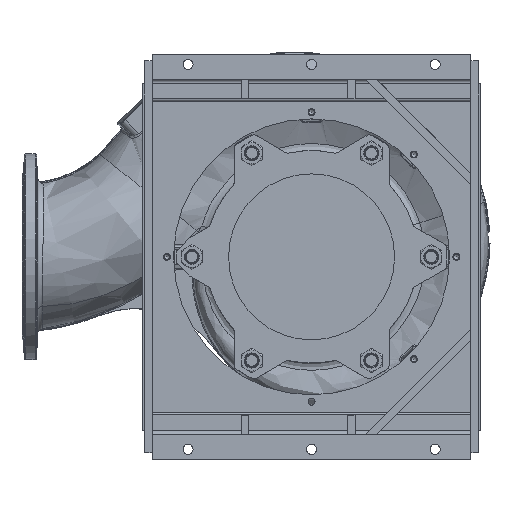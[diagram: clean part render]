
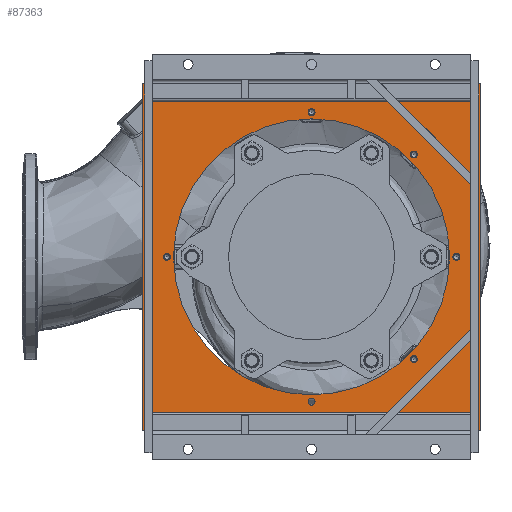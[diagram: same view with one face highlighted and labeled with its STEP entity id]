
A CAD part, front view. The second image highlights one B-rep face of the part: STEP entity #87363.
In plain terms, the highlighted planar face has unit normal (0, -1, 0).
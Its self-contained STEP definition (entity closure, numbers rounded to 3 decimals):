
#3347 = ORIENTED_EDGE ( 'NONE', *, *, #16987, .T. ) ;
#5144 = VERTEX_POINT ( 'NONE', #93128 ) ;
#6228 = EDGE_CURVE ( 'NONE', #5144, #92721, #111304, .T. ) ;
#7547 = EDGE_LOOP ( 'NONE', ( #3347 ) ) ;
#9225 = CARTESIAN_POINT ( 'NONE',  ( 496.627, -242., -265.165 ) ) ;
#9312 = ORIENTED_EDGE ( 'NONE', *, *, #132445, .T. ) ;
#10261 = EDGE_CURVE ( 'NONE', #52701, #5144, #52381, .T. ) ;
#10549 = VERTEX_POINT ( 'NONE', #56535 ) ;
#15157 = CARTESIAN_POINT ( 'NONE',  ( 505.627, -242., 265.165 ) ) ;
#16987 = EDGE_CURVE ( 'NONE', #122360, #122360, #106817, .T. ) ;
#18721 = ORIENTED_EDGE ( 'NONE', *, *, #150561, .T. ) ;
#18819 = FACE_BOUND ( 'NONE', #55289, .T. ) ;
#20319 = AXIS2_PLACEMENT_3D ( 'NONE', #116493, #142422, #31769 ) ;
#24228 = DIRECTION ( 'NONE',  ( 0., 1., 0. ) ) ;
#27444 = LINE ( 'NONE', #75406, #155515 ) ;
#29579 = CARTESIAN_POINT ( 'NONE',  ( 496.627, -242., 265.165 ) ) ;
#30866 = VERTEX_POINT ( 'NONE', #149372 ) ;
#31769 = DIRECTION ( 'NONE',  ( -1., 0., 0. ) ) ;
#31867 = DIRECTION ( 'NONE',  ( 0., 1., 0. ) ) ;
#32417 = DIRECTION ( 'NONE',  ( -1., 0., 0. ) ) ;
#32863 = CIRCLE ( 'NONE', #57430, 9. ) ;
#35849 = AXIS2_PLACEMENT_3D ( 'NONE', #15157, #151892, #77618 ) ;
#37071 = EDGE_LOOP ( 'NONE', ( #37529 ) ) ;
#37529 = ORIENTED_EDGE ( 'NONE', *, *, #91906, .T. ) ;
#37554 = DIRECTION ( 'NONE',  ( -1., 0., 0. ) ) ;
#41400 = VECTOR ( 'NONE', #108657, 1000. ) ;
#42351 = EDGE_LOOP ( 'NONE', ( #9312 ) ) ;
#42961 = CARTESIAN_POINT ( 'NONE',  ( 240.462, -242., -375. ) ) ;
#43504 = VERTEX_POINT ( 'NONE', #9225 ) ;
#43889 = CIRCLE ( 'NONE', #156845, 357.5 ) ;
#45211 = PLANE ( 'NONE',  #107361 ) ;
#45904 = CARTESIAN_POINT ( 'NONE',  ( -143.538, -242., 0. ) ) ;
#46101 = AXIS2_PLACEMENT_3D ( 'NONE', #111672, #24228, #51456 ) ;
#48789 = ORIENTED_EDGE ( 'NONE', *, *, #10261, .F. ) ;
#49856 = DIRECTION ( 'NONE',  ( 0., 0., 1. ) ) ;
#50977 = CARTESIAN_POINT ( 'NONE',  ( 240.462, -242., 375. ) ) ;
#51456 = DIRECTION ( 'NONE',  ( -1., 0., 0. ) ) ;
#51986 = FACE_BOUND ( 'NONE', #77038, .T. ) ;
#52381 = LINE ( 'NONE', #149588, #61995 ) ;
#52701 = VERTEX_POINT ( 'NONE', #60257 ) ;
#53026 = DIRECTION ( 'NONE',  ( -1., 0., 0. ) ) ;
#55289 = EDGE_LOOP ( 'NONE', ( #18721 ) ) ;
#56535 = CARTESIAN_POINT ( 'NONE',  ( -117.038, -242., 0. ) ) ;
#56580 = CIRCLE ( 'NONE', #65264, 9. ) ;
#56901 = VERTEX_POINT ( 'NONE', #29579 ) ;
#57430 = AXIS2_PLACEMENT_3D ( 'NONE', #42961, #67929, #129213 ) ;
#60257 = CARTESIAN_POINT ( 'NONE',  ( -197.038, -242., -450. ) ) ;
#61995 = VECTOR ( 'NONE', #49856, 1000. ) ;
#65264 = AXIS2_PLACEMENT_3D ( 'NONE', #50977, #99249, #112300 ) ;
#67207 = ORIENTED_EDGE ( 'NONE', *, *, #78715, .T. ) ;
#67929 = DIRECTION ( 'NONE',  ( 0., 1., 0. ) ) ;
#69065 = CARTESIAN_POINT ( 'NONE',  ( 677.962, -242., -450. ) ) ;
#75141 = FACE_BOUND ( 'NONE', #37071, .T. ) ;
#75406 = CARTESIAN_POINT ( 'NONE',  ( 677.962, -242., 450. ) ) ;
#77038 = EDGE_LOOP ( 'NONE', ( #129348 ) ) ;
#77618 = DIRECTION ( 'NONE',  ( -1., 0., 0. ) ) ;
#78715 = EDGE_CURVE ( 'NONE', #10549, #10549, #43889, .T. ) ;
#80981 = FACE_BOUND ( 'NONE', #119828, .T. ) ;
#82036 = DIRECTION ( 'NONE',  ( -1., 0., 0. ) ) ;
#82325 = CARTESIAN_POINT ( 'NONE',  ( 615.462, -242., 0. ) ) ;
#84909 = FACE_BOUND ( 'NONE', #7547, .T. ) ;
#87363 = ADVANCED_FACE ( 'NONE', ( #18819, #88789, #84909, #75141, #51986, #114079, #131466, #80981 ), #45211, .F. ) ;
#88789 = FACE_BOUND ( 'NONE', #42351, .T. ) ;
#91719 = VERTEX_POINT ( 'NONE', #45904 ) ;
#91906 = EDGE_CURVE ( 'NONE', #43504, #43504, #146061, .T. ) ;
#92721 = VERTEX_POINT ( 'NONE', #155607 ) ;
#93128 = CARTESIAN_POINT ( 'NONE',  ( -197.038, -242., 450. ) ) ;
#97663 = VERTEX_POINT ( 'NONE', #141851 ) ;
#97857 = CARTESIAN_POINT ( 'NONE',  ( 606.462, -242., 0. ) ) ;
#99249 = DIRECTION ( 'NONE',  ( 0., 1., 0. ) ) ;
#100745 = CIRCLE ( 'NONE', #35849, 9. ) ;
#106817 = CIRCLE ( 'NONE', #114550, 9. ) ;
#107361 = AXIS2_PLACEMENT_3D ( 'NONE', #69065, #143871, #82036 ) ;
#107530 = VERTEX_POINT ( 'NONE', #156471 ) ;
#107547 = CARTESIAN_POINT ( 'NONE',  ( 677.962, -242., 450. ) ) ;
#108657 = DIRECTION ( 'NONE',  ( 1., 0., 0. ) ) ;
#110690 = DIRECTION ( 'NONE',  ( 0., 0., -1. ) ) ;
#111304 = LINE ( 'NONE', #107547, #41400 ) ;
#111672 = CARTESIAN_POINT ( 'NONE',  ( -134.538, -242., 0. ) ) ;
#111910 = DIRECTION ( 'NONE',  ( 0., 1., 0. ) ) ;
#112300 = DIRECTION ( 'NONE',  ( -1., 0., 0. ) ) ;
#113602 = ORIENTED_EDGE ( 'NONE', *, *, #160172, .F. ) ;
#113997 = ORIENTED_EDGE ( 'NONE', *, *, #154767, .T. ) ;
#114079 = FACE_BOUND ( 'NONE', #139146, .T. ) ;
#114550 = AXIS2_PLACEMENT_3D ( 'NONE', #82325, #31867, #32417 ) ;
#116493 = CARTESIAN_POINT ( 'NONE',  ( 505.627, -242., -265.165 ) ) ;
#118604 = VECTOR ( 'NONE', #53026, 1000. ) ;
#119828 = EDGE_LOOP ( 'NONE', ( #67207 ) ) ;
#120967 = ORIENTED_EDGE ( 'NONE', *, *, #160706, .F. ) ;
#122360 = VERTEX_POINT ( 'NONE', #97857 ) ;
#122499 = LINE ( 'NONE', #151659, #118604 ) ;
#123279 = CARTESIAN_POINT ( 'NONE',  ( 240.462, -242., 0. ) ) ;
#129213 = DIRECTION ( 'NONE',  ( -1., 0., 0. ) ) ;
#129348 = ORIENTED_EDGE ( 'NONE', *, *, #130664, .T. ) ;
#130664 = EDGE_CURVE ( 'NONE', #97663, #97663, #32863, .T. ) ;
#131466 = FACE_OUTER_BOUND ( 'NONE', #149958, .T. ) ;
#132445 = EDGE_CURVE ( 'NONE', #56901, #56901, #100745, .T. ) ;
#139146 = EDGE_LOOP ( 'NONE', ( #113997 ) ) ;
#141851 = CARTESIAN_POINT ( 'NONE',  ( 231.462, -242., -375. ) ) ;
#142422 = DIRECTION ( 'NONE',  ( 0., 1., 0. ) ) ;
#143871 = DIRECTION ( 'NONE',  ( 0., 1., 0. ) ) ;
#146061 = CIRCLE ( 'NONE', #20319, 9. ) ;
#149372 = CARTESIAN_POINT ( 'NONE',  ( 677.962, -242., -450. ) ) ;
#149588 = CARTESIAN_POINT ( 'NONE',  ( -197.038, -242., 450. ) ) ;
#149958 = EDGE_LOOP ( 'NONE', ( #113602, #155539, #48789, #120967 ) ) ;
#150561 = EDGE_CURVE ( 'NONE', #107530, #107530, #56580, .T. ) ;
#151659 = CARTESIAN_POINT ( 'NONE',  ( 677.962, -242., -450. ) ) ;
#151892 = DIRECTION ( 'NONE',  ( 0., 1., 0. ) ) ;
#153218 = CIRCLE ( 'NONE', #46101, 9. ) ;
#154767 = EDGE_CURVE ( 'NONE', #91719, #91719, #153218, .T. ) ;
#155515 = VECTOR ( 'NONE', #110690, 1000. ) ;
#155539 = ORIENTED_EDGE ( 'NONE', *, *, #6228, .F. ) ;
#155607 = CARTESIAN_POINT ( 'NONE',  ( 677.962, -242., 450. ) ) ;
#156471 = CARTESIAN_POINT ( 'NONE',  ( 231.462, -242., 375. ) ) ;
#156845 = AXIS2_PLACEMENT_3D ( 'NONE', #123279, #111910, #37554 ) ;
#160172 = EDGE_CURVE ( 'NONE', #92721, #30866, #27444, .T. ) ;
#160706 = EDGE_CURVE ( 'NONE', #30866, #52701, #122499, .T. ) ;
